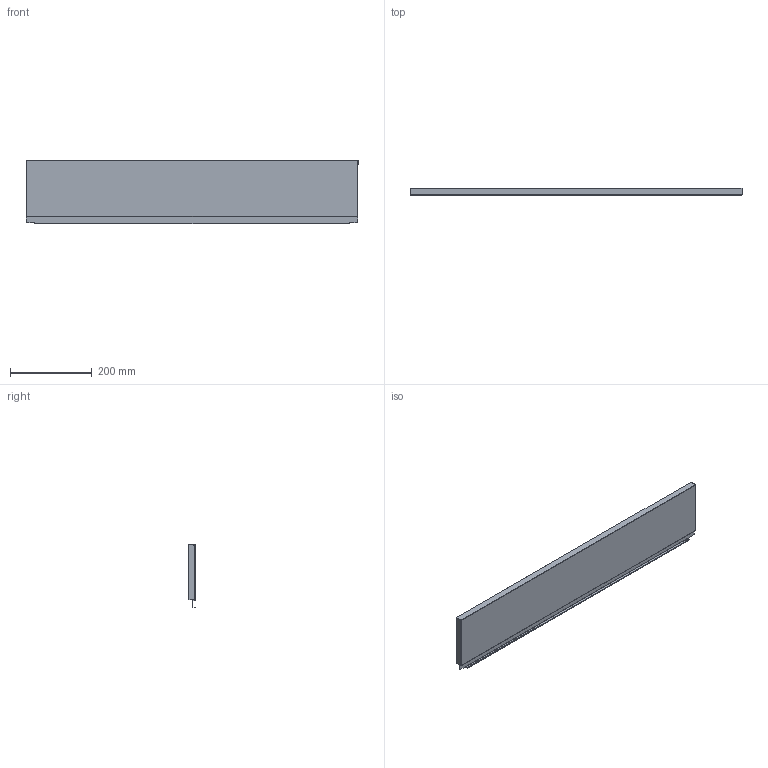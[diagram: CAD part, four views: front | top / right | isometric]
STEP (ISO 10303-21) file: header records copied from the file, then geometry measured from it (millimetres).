
FILE_DESCRIPTION (( 'STEP AP214' ), '1' );
FILE_NAME ('_STRW_H154_KAB_900.step', '2010-08-24T14:40:39', ( 'grass' ), ( '' ), 'SwSTEP 2.0', 'SolidWorks 2009', '' );
FILE_SCHEMA (( 'AUTOMOTIVE_DESIGN' ));
Length unit declared in the file: millimetre
Products named in the file (1): _STRW_H154_KAB_900
Bounding box: 810 x 17 x 154.14 mm (x, y, z)
Volume: 121349.4 mm3; surface area: 305037.8 mm2
Topology: 1 solids, 1 shells, 76 faces, 214 edges, 140 vertices
Faces by surface type: plane 54, cylinder 22
Entity records: 2472 total; most frequent: CARTESIAN_POINT 431, ORIENTED_EDGE 428, DIRECTION 412, EDGE_CURVE 214, LINE 170, VECTOR 170, VERTEX_POINT 140, AXIS2_PLACEMENT_3D 121
